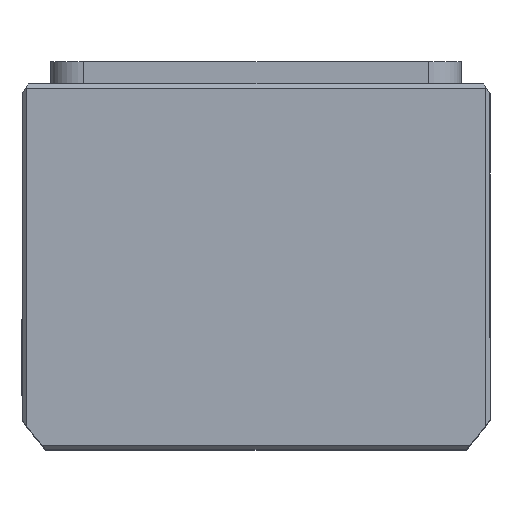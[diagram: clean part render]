
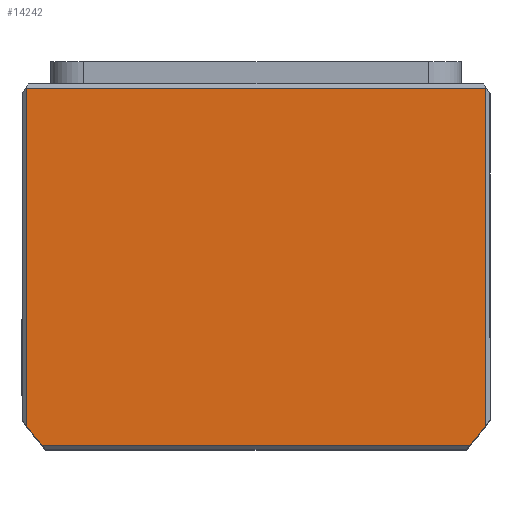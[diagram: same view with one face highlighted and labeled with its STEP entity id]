
A CAD part, top view. The second image highlights one B-rep face of the part: STEP entity #14242.
In plain terms, the highlighted planar face has unit normal (0, 0, 1) as drawn and (0, 0, -1) by its records, which use the part's own axes.
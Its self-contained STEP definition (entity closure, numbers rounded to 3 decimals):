
#545 = LINE ( 'NONE', #15574, #15356 ) ;
#605 = CARTESIAN_POINT ( 'NONE',  ( 0., -2.5, 0. ) ) ;
#789 = CARTESIAN_POINT ( 'NONE',  ( 0., -2.5, 0. ) ) ;
#921 = ORIENTED_EDGE ( 'NONE', *, *, #3765, .T. ) ;
#1412 = CARTESIAN_POINT ( 'NONE',  ( -56., 0., 0. ) ) ;
#1489 = DIRECTION ( 'NONE',  ( 1., 0., 0. ) ) ;
#1539 = VERTEX_POINT ( 'NONE', #2439 ) ;
#1913 = VECTOR ( 'NONE', #17692, 1000. ) ;
#2095 = DIRECTION ( 'NONE',  ( 1., 0., 0. ) ) ;
#2291 = DIRECTION ( 'NONE',  ( 1., 0., 0. ) ) ;
#2439 = CARTESIAN_POINT ( 'NONE',  ( 52.098, 43.5, 0. ) ) ;
#3193 = LINE ( 'NONE', #8001, #14508 ) ;
#3287 = ORIENTED_EDGE ( 'NONE', *, *, #13304, .T. ) ;
#3668 = EDGE_CURVE ( 'NONE', #9244, #15405, #18449, .T. ) ;
#3765 = EDGE_CURVE ( 'NONE', #14801, #18687, #3193, .T. ) ;
#3874 = EDGE_CURVE ( 'NONE', #13958, #1539, #6666, .T. ) ;
#4224 = EDGE_LOOP ( 'NONE', ( #15365, #17677, #921, #3287, #5578, #10693 ) ) ;
#4405 = CARTESIAN_POINT ( 'NONE',  ( 56., 0., 0. ) ) ;
#5255 = CARTESIAN_POINT ( 'NONE',  ( -52.098, 43.5, 0. ) ) ;
#5578 = ORIENTED_EDGE ( 'NONE', *, *, #3668, .F. ) ;
#5695 = DIRECTION ( 'NONE',  ( 1., 0., 0. ) ) ;
#5866 = LINE ( 'NONE', #4405, #1913 ) ;
#6666 = CIRCLE ( 'NONE', #18372, 69.5 ) ;
#7334 = DIRECTION ( 'NONE',  ( 0., 1., 0. ) ) ;
#7734 = FACE_OUTER_BOUND ( 'NONE', #4224, .T. ) ;
#7803 = CARTESIAN_POINT ( 'NONE',  ( -56., -43.5, 0. ) ) ;
#8001 = CARTESIAN_POINT ( 'NONE',  ( 0., -43.5, 0. ) ) ;
#9241 = EDGE_CURVE ( 'NONE', #9244, #1539, #545, .T. ) ;
#9244 = VERTEX_POINT ( 'NONE', #5255 ) ;
#9488 = DIRECTION ( 'NONE',  ( -1., 0., 0. ) ) ;
#9651 = AXIS2_PLACEMENT_3D ( 'NONE', #10088, #14534, #5695 ) ;
#10088 = CARTESIAN_POINT ( 'NONE',  ( 0., 0., 0. ) ) ;
#10450 = EDGE_CURVE ( 'NONE', #13958, #14801, #5866, .T. ) ;
#10693 = ORIENTED_EDGE ( 'NONE', *, *, #9241, .T. ) ;
#10974 = DIRECTION ( 'NONE',  ( 0., 0., 1. ) ) ;
#11158 = DIRECTION ( 'NONE',  ( 0., 0., 1. ) ) ;
#13304 = EDGE_CURVE ( 'NONE', #18687, #15405, #18787, .T. ) ;
#13958 = VERTEX_POINT ( 'NONE', #15383 ) ;
#14242 = ADVANCED_FACE ( 'NONE', ( #7734 ), #18906, .F. ) ;
#14508 = VECTOR ( 'NONE', #9488, 1000. ) ;
#14534 = DIRECTION ( 'NONE',  ( 0., 0., 1. ) ) ;
#14801 = VERTEX_POINT ( 'NONE', #18466 ) ;
#15354 = VECTOR ( 'NONE', #7334, 1000. ) ;
#15356 = VECTOR ( 'NONE', #1489, 1000. ) ;
#15365 = ORIENTED_EDGE ( 'NONE', *, *, #3874, .F. ) ;
#15383 = CARTESIAN_POINT ( 'NONE',  ( 56., 38.661, 0. ) ) ;
#15401 = AXIS2_PLACEMENT_3D ( 'NONE', #605, #10974, #2095 ) ;
#15405 = VERTEX_POINT ( 'NONE', #17866 ) ;
#15574 = CARTESIAN_POINT ( 'NONE',  ( 0., 43.5, 0. ) ) ;
#17677 = ORIENTED_EDGE ( 'NONE', *, *, #10450, .T. ) ;
#17692 = DIRECTION ( 'NONE',  ( 0., -1., 0. ) ) ;
#17866 = CARTESIAN_POINT ( 'NONE',  ( -56., 38.661, 0. ) ) ;
#18372 = AXIS2_PLACEMENT_3D ( 'NONE', #789, #11158, #2291 ) ;
#18449 = CIRCLE ( 'NONE', #15401, 69.5 ) ;
#18466 = CARTESIAN_POINT ( 'NONE',  ( 56., -43.5, 0. ) ) ;
#18687 = VERTEX_POINT ( 'NONE', #7803 ) ;
#18787 = LINE ( 'NONE', #1412, #15354 ) ;
#18906 = PLANE ( 'NONE',  #9651 ) ;
